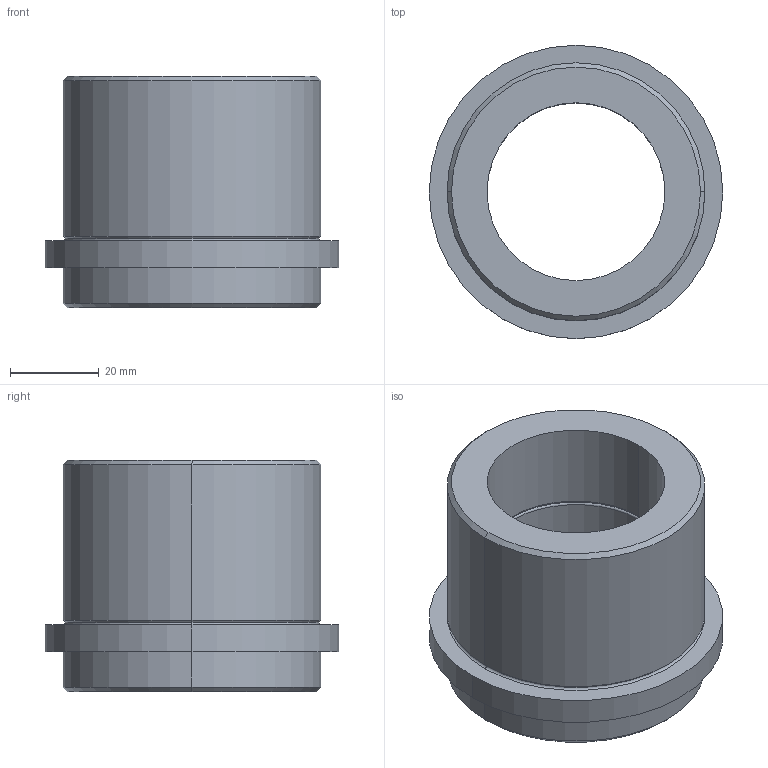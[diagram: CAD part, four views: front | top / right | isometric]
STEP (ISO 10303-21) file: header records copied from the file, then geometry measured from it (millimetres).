
FILE_DESCRIPTION (( 'STEP AP214' ), '1' );
FILE_NAME ('Casquillo SB500-40-52.STEP', '2018-11-26T13:02:50', ( '' ), ( '' ), 'SwSTEP 2.0', 'SolidWorks 2018', '' );
FILE_SCHEMA (( 'AUTOMOTIVE_DESIGN' ));
Length unit declared in the file: millimetre
Products named in the file (1): Casquillo SB500-40-52
Bounding box: 66 x 66 x 52 mm (x, y, z)
Volume: 76439.4 mm3; surface area: 20521.3 mm2
Topology: 1 solids, 1 shells, 32 faces, 64 edges, 36 vertices
Faces by surface type: torus 12, cylinder 12, cone 4, plane 4
Entity records: 874 total; most frequent: DIRECTION 178, CARTESIAN_POINT 133, ORIENTED_EDGE 128, AXIS2_PLACEMENT_3D 81, EDGE_CURVE 64, CIRCLE 48, EDGE_LOOP 36, VERTEX_POINT 36
